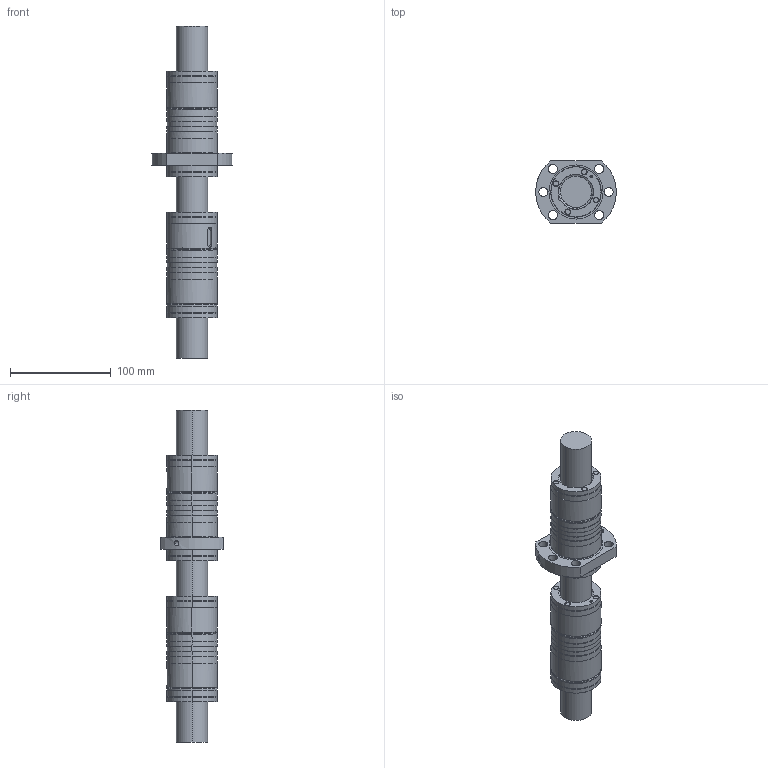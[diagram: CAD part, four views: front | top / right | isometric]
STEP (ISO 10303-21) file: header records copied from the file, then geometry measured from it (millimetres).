
FILE_DESCRIPTION(('Creo Elements/Direct Modeling STEP Export'),'2;1');
FILE_NAME('HSB-KGT-MM-3240RH-4g.stp','2015-05-13T15:58:45',(''),(''),'Creo Elements/Direct Modeling STEP processor for AP214 (Solid Model)','Creo Elements/Direct Modeling 18.1F 24-Jul-2014 (C) Parametric Technology GmbH','');
FILE_SCHEMA(('AUTOMOTIVE_DESIGN { 1 0 10303 214 1 1 1 1 }'));
Length unit declared in the file: millimetre
Products named in the file (3): HSB-KGM-FM-3240RG-4g_22887; HSB-KGM-MM-3240RH-4g_23347; HSB-KGS-3240RH-4g-T7_23882
Bounding box: 79.74 x 62 x 330 mm (x, y, z)
Volume: 521133.9 mm3; surface area: 100091 mm2
Topology: 3 solids, 3 shells, 324 faces, 868 edges, 583 vertices
Faces by surface type: cylinder 152, cone 78, plane 64, torus 30
Entity records: 19526 total; most frequent: CARTESIAN_POINT 9608, ORIENTED_EDGE 1716, DIRECTION 1322, EDGE_CURVE 858, VERTEX_POINT 583, AXIS2_PLACEMENT_3D 534, EDGE_LOOP 383, COLOUR_RGB 327
